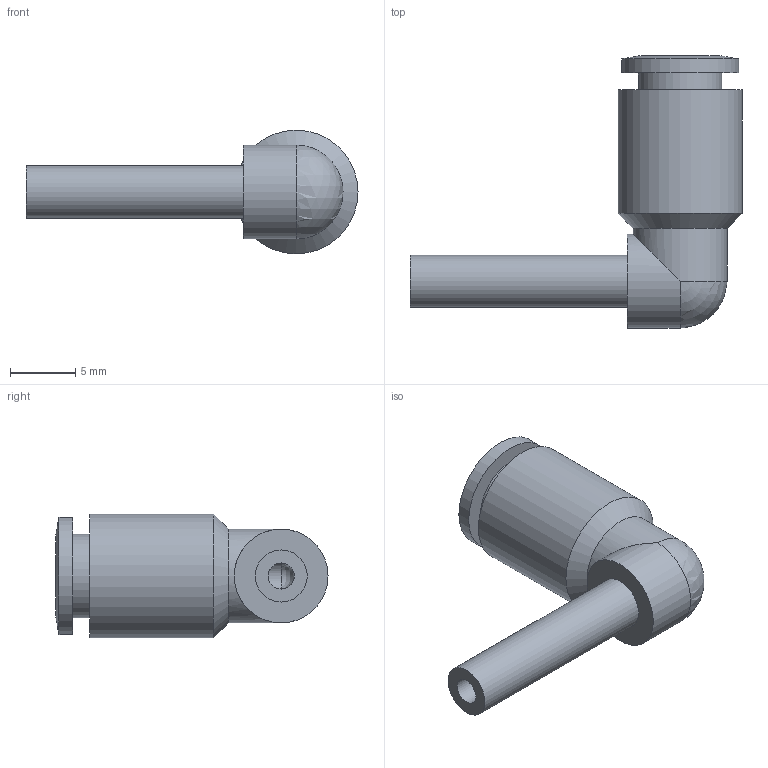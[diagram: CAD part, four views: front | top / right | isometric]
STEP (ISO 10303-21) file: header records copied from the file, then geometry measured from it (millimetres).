
FILE_DESCRIPTION((''),'2;1');
FILE_NAME('C:\Documents and Settings\rivolro1\Documenti\copia di Raccordi\PLASTICA\T04XXL0\T0404L0.stp','2007-10-30T15:45:38',('Rivolro1'),(''),'Autodesk Inventor 2008','Autodesk Inventor 2008','');
FILE_SCHEMA(('AUTOMOTIVE_DESIGN { 1 0 10303 214 1 1 1 1 }'));
Length unit declared in the file: millimetre
Products named in the file (1): T0404L0
Bounding box: 25.5 x 20.9 x 9.5 mm (x, y, z)
Volume: 1100.8 mm3; surface area: 1276.9 mm2
Topology: 1 solids, 1 shells, 20 faces, 41 edges, 23 vertices
Faces by surface type: cylinder 8, plane 6, bspline 3, cone 2, sphere 1
Full cylindrical faces by diameter (mm): 2 x1, 2.3 x1, 4 x1, 6.4 x1, 7.2 x2, 9 x1, 9.5 x1
Entity records: 547 total; most frequent: CARTESIAN_POINT 151, DIRECTION 80, ORIENTED_EDGE 48, AXIS2_PLACEMENT_3D 39, EDGE_LOOP 37, EDGE_CURVE 24, VERTEX_POINT 21, CIRCLE 20
